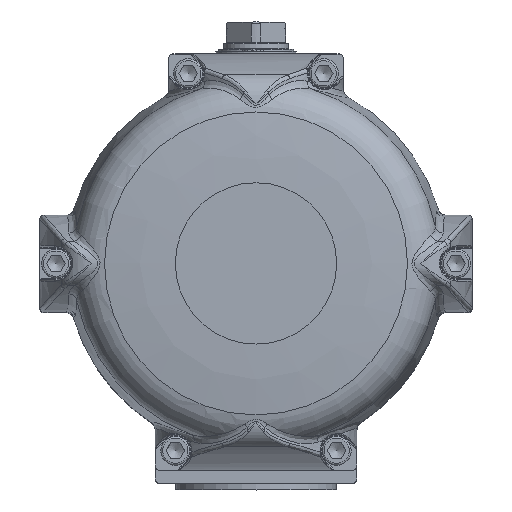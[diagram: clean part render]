
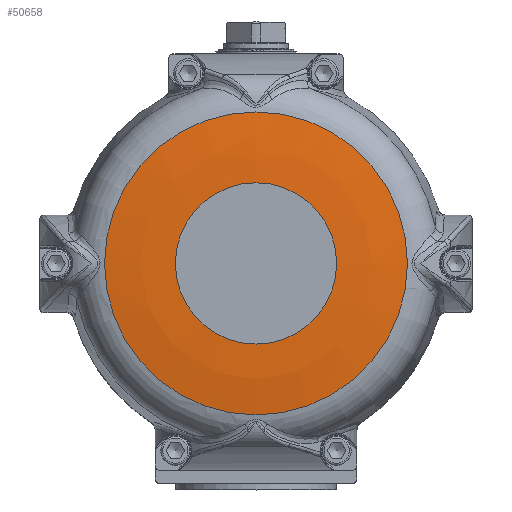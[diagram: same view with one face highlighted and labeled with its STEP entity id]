
A CAD part, top view. The second image highlights one B-rep face of the part: STEP entity #50658.
In plain terms, the highlighted free-form (B-spline) face has degree [2, 2] with [3, 9] control points.
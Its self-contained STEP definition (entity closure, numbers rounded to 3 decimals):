
#1059=(
BOUNDED_SURFACE()
B_SPLINE_SURFACE(2,2,((#120352,#120353,#120354,#120355,#120356,#120357,
#120358,#120359,#120360),(#120361,#120362,#120363,#120364,#120365,#120366,
#120367,#120368,#120369),(#120370,#120371,#120372,#120373,#120374,#120375,
#120376,#120377,#120378)),.UNSPECIFIED.,.F.,.T.,.F.)
B_SPLINE_SURFACE_WITH_KNOTS((3,3),(3,2,2,2,3),(-1.571,-1.424),
(-3.142,-1.571,0.,1.571,3.142),
 .UNSPECIFIED.)
GEOMETRIC_REPRESENTATION_ITEM()
RATIONAL_B_SPLINE_SURFACE(((1.,0.707,1.,0.707,1.,
0.707,1.,0.707,1.),(0.997,0.705,
0.997,0.705,0.997,0.705,
0.997,0.705,0.997),(1.,0.707,
1.,0.707,1.,0.707,1.,0.707,1.)))
REPRESENTATION_ITEM('')
SURFACE()
);
#6499=FACE_OUTER_BOUND('',#9546,.T.);
#9546=EDGE_LOOP('',(#38590,#38591,#38592,#38593));
#12724=CIRCLE('',#54564,93.903);
#12759=CIRCLE('',#54620,50.);
#12760=CIRCLE('',#54621,300.);
#21001=VERTEX_POINT('',#118555);
#21061=VERTEX_POINT('',#120350);
#27100=EDGE_CURVE('',#21001,#21001,#12724,.T.);
#27217=EDGE_CURVE('',#21061,#21061,#12759,.T.);
#27218=EDGE_CURVE('',#21001,#21061,#12760,.T.);
#38590=ORIENTED_EDGE('',*,*,#27100,.F.);
#38591=ORIENTED_EDGE('',*,*,#27218,.T.);
#38592=ORIENTED_EDGE('',*,*,#27217,.T.);
#38593=ORIENTED_EDGE('',*,*,#27218,.F.);
#50658=ADVANCED_FACE('',(#6499),#1059,.F.);
#54564=AXIS2_PLACEMENT_3D('',#118557,#62627,#62628);
#54620=AXIS2_PLACEMENT_3D('',#120351,#62756,#62757);
#54621=AXIS2_PLACEMENT_3D('',#120379,#62758,#62759);
#62627=DIRECTION('center_axis',(0.,0.,
-1.));
#62628=DIRECTION('ref_axis',(1.,0.,0.));
#62756=DIRECTION('center_axis',(0.,0.,
-1.));
#62757=DIRECTION('ref_axis',(1.,0.,0.));
#62758=DIRECTION('center_axis',(1.,0.,0.));
#62759=DIRECTION('ref_axis',(0.,1.,0.));
#118555=CARTESIAN_POINT('',(0.,93.903,211.77));
#118557=CARTESIAN_POINT('Origin',(0.,0.,
211.77));
#120350=CARTESIAN_POINT('',(0.,50.,215.));
#120351=CARTESIAN_POINT('Origin',(0.,0.,
215.));
#120352=CARTESIAN_POINT('Ctrl Pts',(0.,50.,215.));
#120353=CARTESIAN_POINT('Ctrl Pts',(50.,50.,215.));
#120354=CARTESIAN_POINT('Ctrl Pts',(50.,0.,
215.));
#120355=CARTESIAN_POINT('Ctrl Pts',(50.,-50.,215.));
#120356=CARTESIAN_POINT('Ctrl Pts',(0.,-50.,215.));
#120357=CARTESIAN_POINT('Ctrl Pts',(-50.,-50.,
215.));
#120358=CARTESIAN_POINT('Ctrl Pts',(-50.,0.,
215.));
#120359=CARTESIAN_POINT('Ctrl Pts',(-50.,50.,215.));
#120360=CARTESIAN_POINT('Ctrl Pts',(0.,50.,215.));
#120361=CARTESIAN_POINT('Ctrl Pts',(0.,72.07,
215.));
#120362=CARTESIAN_POINT('Ctrl Pts',(72.07,72.07,215.));
#120363=CARTESIAN_POINT('Ctrl Pts',(72.07,0.,
215.));
#120364=CARTESIAN_POINT('Ctrl Pts',(72.07,-72.07,
215.));
#120365=CARTESIAN_POINT('Ctrl Pts',(0.,-72.07,
215.));
#120366=CARTESIAN_POINT('Ctrl Pts',(-72.07,-72.07,
215.));
#120367=CARTESIAN_POINT('Ctrl Pts',(-72.07,0.,
215.));
#120368=CARTESIAN_POINT('Ctrl Pts',(-72.07,72.07,
215.));
#120369=CARTESIAN_POINT('Ctrl Pts',(0.,72.07,
215.));
#120370=CARTESIAN_POINT('Ctrl Pts',(0.,93.903,
211.77));
#120371=CARTESIAN_POINT('Ctrl Pts',(93.903,93.903,211.77));
#120372=CARTESIAN_POINT('Ctrl Pts',(93.903,0.,
211.77));
#120373=CARTESIAN_POINT('Ctrl Pts',(93.903,-93.903,211.77));
#120374=CARTESIAN_POINT('Ctrl Pts',(0.,-93.903,
211.77));
#120375=CARTESIAN_POINT('Ctrl Pts',(-93.903,-93.903,
211.77));
#120376=CARTESIAN_POINT('Ctrl Pts',(-93.903,0.,
211.77));
#120377=CARTESIAN_POINT('Ctrl Pts',(-93.903,93.903,211.77));
#120378=CARTESIAN_POINT('Ctrl Pts',(0.,93.903,
211.77));
#120379=CARTESIAN_POINT('Origin',(0.,50.,
-85.));
